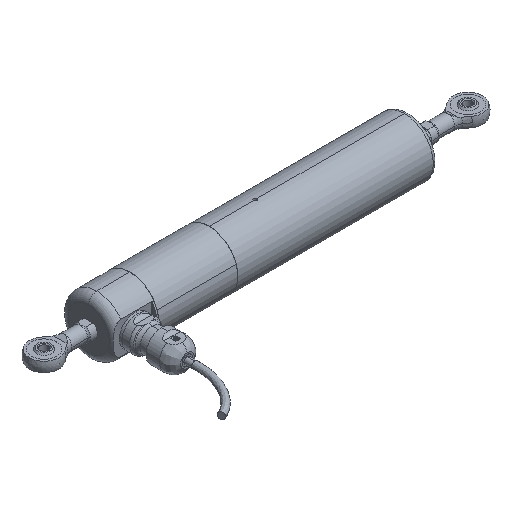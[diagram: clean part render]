
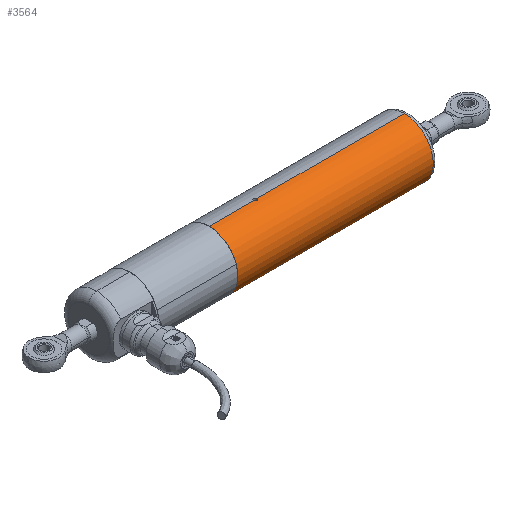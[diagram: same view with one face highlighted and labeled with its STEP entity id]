
A CAD part, isometric view. The second image highlights one B-rep face of the part: STEP entity #3564.
In plain terms, the highlighted cylindrical face has radius 17.5 mm (diameter 35 mm), a partial arc.
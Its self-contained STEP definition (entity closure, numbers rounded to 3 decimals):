
#57 = CARTESIAN_POINT ( 'NONE',  ( 2.85, -0.965, -18.224 ) ) ;
#116 = CARTESIAN_POINT ( 'NONE',  ( 29.976, -1.468, -18.217 ) ) ;
#371 = EDGE_LOOP ( 'NONE', ( #4173, #2054, #6921, #5534, #6416, #5497, #4311, #556 ) ) ;
#422 = AXIS2_PLACEMENT_3D ( 'NONE', #6258, #860, #4060 ) ;
#430 = CARTESIAN_POINT ( 'NONE',  ( 31.465, -1.765, 16.758 ) ) ;
#451 = EDGE_CURVE ( 'NONE', #6046, #5914, #815, .T. ) ;
#497 = CARTESIAN_POINT ( 'NONE',  ( 29.85, -1.096, 16.776 ) ) ;
#556 = ORIENTED_EDGE ( 'NONE', *, *, #1825, .T. ) ;
#623 = EDGE_CURVE ( 'NONE', #1121, #1367, #1695, .T. ) ;
#760 = VECTOR ( 'NONE', #2808, 1000. ) ;
#776 = B_SPLINE_CURVE_WITH_KNOTS ( 'NONE', 3,
 ( #6054, #6619, #3401, #116, #3434, #4980, #6587, #6018, #2233, #3862, #5623, #1713, #6089, #4418, #5511, #1149 ),
 .UNSPECIFIED., .F., .F.,
 ( 4, 2, 2, 2, 2, 2, 2, 4 ),
 ( 0.003, 0.004, 0.004, 0.004, 0.005, 0.005, 0.005, 0.006 ),
 .UNSPECIFIED. ) ;
#785 = FACE_OUTER_BOUND ( 'NONE', #371, .T. ) ;
#815 = B_SPLINE_CURVE_WITH_KNOTS ( 'NONE', 3,
 ( #5933, #4326, #4859, #3249, #5358, #430, #6952, #2645, #2044, #2078, #4243, #4786, #3209, #5895, #1040, #5318, #497, #4818 ),
 .UNSPECIFIED., .F., .F.,
 ( 4, 2, 2, 2, 2, 2, 2, 2, 4 ),
 ( 0., 0., 0.001, 0.001, 0.002, 0.002, 0.002, 0.003, 0.003 ),
 .UNSPECIFIED. ) ;
#860 = DIRECTION ( 'NONE',  ( -1., 0., 0. ) ) ;
#1040 = CARTESIAN_POINT ( 'NONE',  ( 29.976, -1.469, 16.769 ) ) ;
#1050 = CARTESIAN_POINT ( 'NONE',  ( 2.85, -0.965, 16.776 ) ) ;
#1121 = VERTEX_POINT ( 'NONE', #2411 ) ;
#1135 = DIRECTION ( 'NONE',  ( -1., 0., 0. ) ) ;
#1149 = CARTESIAN_POINT ( 'NONE',  ( 31.85, -0.965, -18.224 ) ) ;
#1186 = CARTESIAN_POINT ( 'NONE',  ( 2.85, -0.965, -18.224 ) ) ;
#1247 = LINE ( 'NONE', #3395, #2710 ) ;
#1367 = VERTEX_POINT ( 'NONE', #3218 ) ;
#1508 = VERTEX_POINT ( 'NONE', #57 ) ;
#1641 = LINE ( 'NONE', #1186, #760 ) ;
#1695 = LINE ( 'NONE', #6005, #2208 ) ;
#1713 = CARTESIAN_POINT ( 'NONE',  ( 31.353, -1.839, -18.202 ) ) ;
#1825 = EDGE_CURVE ( 'NONE', #5192, #1367, #776, .T. ) ;
#2018 = DIRECTION ( 'NONE',  ( -1., 0., 0. ) ) ;
#2044 = CARTESIAN_POINT ( 'NONE',  ( 30.981, -1.965, 16.747 ) ) ;
#2054 = ORIENTED_EDGE ( 'NONE', *, *, #4873, .T. ) ;
#2078 = CARTESIAN_POINT ( 'NONE',  ( 30.72, -1.965, 16.747 ) ) ;
#2208 = VECTOR ( 'NONE', #1135, 1000. ) ;
#2233 = CARTESIAN_POINT ( 'NONE',  ( 30.717, -1.965, -18.196 ) ) ;
#2270 = DIRECTION ( 'NONE',  ( -1., 0., 0. ) ) ;
#2302 = CARTESIAN_POINT ( 'NONE',  ( 31.85, -0.965, 16.776 ) ) ;
#2319 = VERTEX_POINT ( 'NONE', #3708 ) ;
#2332 = DIRECTION ( 'NONE',  ( -1., 0., 0. ) ) ;
#2411 = CARTESIAN_POINT ( 'NONE',  ( 121.35, -0.965, -18.224 ) ) ;
#2615 = AXIS2_PLACEMENT_3D ( 'NONE', #4983, #2270, #2737 ) ;
#2645 = CARTESIAN_POINT ( 'NONE',  ( 31.112, -1.939, 16.749 ) ) ;
#2710 = VECTOR ( 'NONE', #2332, 1000. ) ;
#2737 = DIRECTION ( 'NONE',  ( 0., 0., 1. ) ) ;
#2808 = DIRECTION ( 'NONE',  ( -1., 0., 0. ) ) ;
#3073 = EDGE_CURVE ( 'NONE', #5914, #5488, #1247, .T. ) ;
#3209 = CARTESIAN_POINT ( 'NONE',  ( 30.236, -1.766, 16.758 ) ) ;
#3218 = CARTESIAN_POINT ( 'NONE',  ( 31.85, -0.965, -18.224 ) ) ;
#3235 = CIRCLE ( 'NONE', #422, 17.5 ) ;
#3249 = CARTESIAN_POINT ( 'NONE',  ( 31.724, -1.47, 16.769 ) ) ;
#3395 = CARTESIAN_POINT ( 'NONE',  ( 2.85, -0.965, 16.776 ) ) ;
#3401 = CARTESIAN_POINT ( 'NONE',  ( 29.876, -1.228, -18.223 ) ) ;
#3434 = CARTESIAN_POINT ( 'NONE',  ( 30.05, -1.58, -18.214 ) ) ;
#3459 = VECTOR ( 'NONE', #2018, 1000. ) ;
#3490 = CARTESIAN_POINT ( 'NONE',  ( 2.85, -0.965, -0.724 ) ) ;
#3564 = ADVANCED_FACE ( 'NONE', ( #785 ), #5240, .T. ) ;
#3708 = CARTESIAN_POINT ( 'NONE',  ( 121.35, -0.965, 16.776 ) ) ;
#3862 = CARTESIAN_POINT ( 'NONE',  ( 30.981, -1.966, -18.196 ) ) ;
#4060 = DIRECTION ( 'NONE',  ( 0., 0., 1. ) ) ;
#4173 = ORIENTED_EDGE ( 'NONE', *, *, #623, .F. ) ;
#4243 = CARTESIAN_POINT ( 'NONE',  ( 30.589, -1.94, 16.749 ) ) ;
#4248 = CARTESIAN_POINT ( 'NONE',  ( 2.85, -0.965, 16.776 ) ) ;
#4311 = ORIENTED_EDGE ( 'NONE', *, *, #4938, .F. ) ;
#4326 = CARTESIAN_POINT ( 'NONE',  ( 31.85, -1.098, 16.776 ) ) ;
#4418 = CARTESIAN_POINT ( 'NONE',  ( 31.741, -1.489, -18.217 ) ) ;
#4761 = CARTESIAN_POINT ( 'NONE',  ( 29.85, -0.965, -18.224 ) ) ;
#4786 = CARTESIAN_POINT ( 'NONE',  ( 30.347, -1.839, 16.754 ) ) ;
#4818 = CARTESIAN_POINT ( 'NONE',  ( 29.85, -0.965, 16.776 ) ) ;
#4859 = CARTESIAN_POINT ( 'NONE',  ( 31.824, -1.227, 16.774 ) ) ;
#4873 = EDGE_CURVE ( 'NONE', #1121, #2319, #5700, .T. ) ;
#4938 = EDGE_CURVE ( 'NONE', #5192, #1508, #1641, .T. ) ;
#4980 = CARTESIAN_POINT ( 'NONE',  ( 30.235, -1.764, -18.206 ) ) ;
#4983 = CARTESIAN_POINT ( 'NONE',  ( 121.35, -0.965, -0.724 ) ) ;
#5119 = EDGE_CURVE ( 'NONE', #2319, #6046, #6369, .T. ) ;
#5138 = DIRECTION ( 'NONE',  ( 0., 0., 1. ) ) ;
#5192 = VERTEX_POINT ( 'NONE', #4761 ) ;
#5240 = CYLINDRICAL_SURFACE ( 'NONE', #6588, 17.5 ) ;
#5318 = CARTESIAN_POINT ( 'NONE',  ( 29.876, -1.227, 16.774 ) ) ;
#5358 = CARTESIAN_POINT ( 'NONE',  ( 31.649, -1.58, 16.765 ) ) ;
#5401 = EDGE_CURVE ( 'NONE', #1508, #5488, #3235, .T. ) ;
#5473 = CARTESIAN_POINT ( 'NONE',  ( 29.85, -0.965, 16.776 ) ) ;
#5488 = VERTEX_POINT ( 'NONE', #4248 ) ;
#5497 = ORIENTED_EDGE ( 'NONE', *, *, #5401, .F. ) ;
#5511 = CARTESIAN_POINT ( 'NONE',  ( 31.85, -1.23, -18.224 ) ) ;
#5534 = ORIENTED_EDGE ( 'NONE', *, *, #451, .T. ) ;
#5623 = CARTESIAN_POINT ( 'NONE',  ( 31.111, -1.94, -18.197 ) ) ;
#5700 = CIRCLE ( 'NONE', #2615, 17.5 ) ;
#5895 = CARTESIAN_POINT ( 'NONE',  ( 30.05, -1.579, 16.765 ) ) ;
#5914 = VERTEX_POINT ( 'NONE', #5473 ) ;
#5933 = CARTESIAN_POINT ( 'NONE',  ( 31.85, -0.965, 16.776 ) ) ;
#6005 = CARTESIAN_POINT ( 'NONE',  ( 2.85, -0.965, -18.224 ) ) ;
#6018 = CARTESIAN_POINT ( 'NONE',  ( 30.587, -1.939, -18.197 ) ) ;
#6046 = VERTEX_POINT ( 'NONE', #2302 ) ;
#6054 = CARTESIAN_POINT ( 'NONE',  ( 29.85, -0.965, -18.224 ) ) ;
#6089 = CARTESIAN_POINT ( 'NONE',  ( 31.464, -1.765, -18.206 ) ) ;
#6180 = DIRECTION ( 'NONE',  ( -1., 0., 0. ) ) ;
#6258 = CARTESIAN_POINT ( 'NONE',  ( 2.85, -0.965, -0.724 ) ) ;
#6369 = LINE ( 'NONE', #1050, #3459 ) ;
#6416 = ORIENTED_EDGE ( 'NONE', *, *, #3073, .T. ) ;
#6587 = CARTESIAN_POINT ( 'NONE',  ( 30.345, -1.839, -18.202 ) ) ;
#6588 = AXIS2_PLACEMENT_3D ( 'NONE', #3490, #6180, #5138 ) ;
#6619 = CARTESIAN_POINT ( 'NONE',  ( 29.85, -1.096, -18.224 ) ) ;
#6921 = ORIENTED_EDGE ( 'NONE', *, *, #5119, .T. ) ;
#6952 = CARTESIAN_POINT ( 'NONE',  ( 31.353, -1.839, 16.754 ) ) ;
